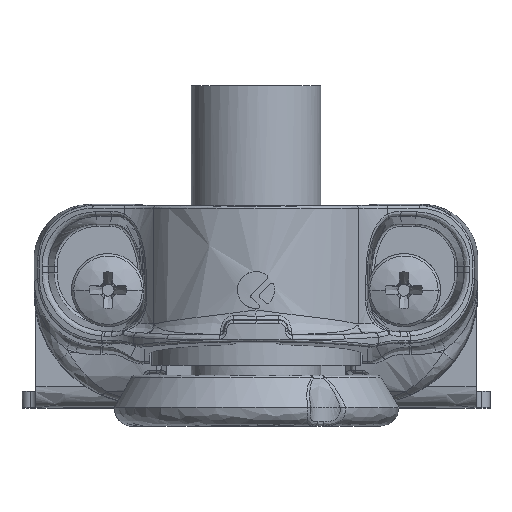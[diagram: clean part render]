
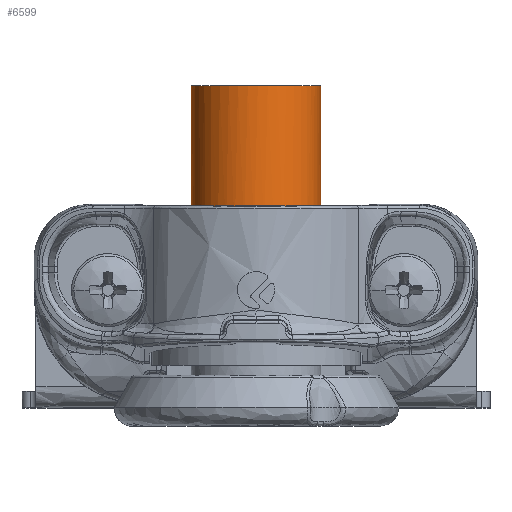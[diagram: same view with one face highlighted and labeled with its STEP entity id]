
A CAD part, top view. The second image highlights one B-rep face of the part: STEP entity #6599.
In plain terms, the highlighted free-form (B-spline) face has degree [1, 3] with [2, 4] control points.
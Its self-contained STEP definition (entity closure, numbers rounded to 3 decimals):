
#230 = EDGE_CURVE ( 'NONE', #28515, #46339, #40905, .T. ) ;
#1218 =( BOUNDED_SURFACE ( )  B_SPLINE_SURFACE ( 1, 3, ( 
 ( #20879, #5001, #48065, #5245 ),
 ( #1241, #47585, #9290, #36461 ) ),
 .UNSPECIFIED., .F., .F., .F. ) 
 B_SPLINE_SURFACE_WITH_KNOTS ( ( 2, 2 ),
 ( 4, 4 ),
 ( 0.019, 0.981 ),
 ( 0., 1. ),
 .UNSPECIFIED. ) 
 GEOMETRIC_REPRESENTATION_ITEM ( )  RATIONAL_B_SPLINE_SURFACE ( (
 ( 1., 0.333, 0.333, 1.),
 ( 1., 0.333, 0.333, 1.) ) ) 
 REPRESENTATION_ITEM ( '' )  SURFACE ( )  );
#1241 = CARTESIAN_POINT ( 'NONE',  ( -7., 30.7, 0. ) ) ;
#3926 = EDGE_CURVE ( 'NONE', #24219, #46339, #29794, .T. ) ;
#5001 = CARTESIAN_POINT ( 'NONE',  ( -7., 14.8, 14. ) ) ;
#5245 = CARTESIAN_POINT ( 'NONE',  ( 7., 14.8, 0. ) ) ;
#6599 = ADVANCED_FACE ( 'NONE', ( #24397 ), #1218, .T. ) ;
#7137 = EDGE_CURVE ( 'NONE', #24219, #13693, #13239, .T. ) ;
#9290 = CARTESIAN_POINT ( 'NONE',  ( 7., 30.7, 14. ) ) ;
#11780 = CARTESIAN_POINT ( 'NONE',  ( -7., 14.8, 0. ) ) ;
#13239 =( BOUNDED_CURVE ( )  B_SPLINE_CURVE ( 3, ( #31346, #28561, #24029, #23538 ),
 .UNSPECIFIED., .F., .F. ) 
 B_SPLINE_CURVE_WITH_KNOTS ( ( 4, 4 ),
 ( 0., 3.142 ),
 .UNSPECIFIED. ) 
 CURVE ( )  GEOMETRIC_REPRESENTATION_ITEM ( )  RATIONAL_B_SPLINE_CURVE ( ( 1., 0.333, 0.333, 1. ) ) 
 REPRESENTATION_ITEM ( '' )  );
#13693 = VERTEX_POINT ( 'NONE', #30518 ) ;
#14481 = CARTESIAN_POINT ( 'NONE',  ( 7., 14.8, 0. ) ) ;
#14506 = ORIENTED_EDGE ( 'NONE', *, *, #3926, .F. ) ;
#15547 = CARTESIAN_POINT ( 'NONE',  ( 7., 30.7, 0. ) ) ;
#17083 = EDGE_CURVE ( 'NONE', #28515, #13693, #49270, .T. ) ;
#20879 = CARTESIAN_POINT ( 'NONE',  ( -7., 14.8, 0. ) ) ;
#21223 = ORIENTED_EDGE ( 'NONE', *, *, #230, .T. ) ;
#22841 = CARTESIAN_POINT ( 'NONE',  ( 7., 14.8, 0. ) ) ;
#23538 = CARTESIAN_POINT ( 'NONE',  ( 7., 30.7, 0. ) ) ;
#24029 = CARTESIAN_POINT ( 'NONE',  ( 7., 30.7, 14. ) ) ;
#24219 = VERTEX_POINT ( 'NONE', #45507 ) ;
#24397 = FACE_OUTER_BOUND ( 'NONE', #44163, .T. ) ;
#28515 = VERTEX_POINT ( 'NONE', #28829 ) ;
#28561 = CARTESIAN_POINT ( 'NONE',  ( -7., 30.7, 14. ) ) ;
#28829 = CARTESIAN_POINT ( 'NONE',  ( 7., 14.8, 0. ) ) ;
#29794 = B_SPLINE_CURVE_WITH_KNOTS ( 'NONE', 1,
 ( #43476, #43971 ),
 .UNSPECIFIED., .F., .F.,
 ( 2, 2 ),
 ( 0., 1. ),
 .UNSPECIFIED. ) ;
#30236 = ORIENTED_EDGE ( 'NONE', *, *, #17083, .F. ) ;
#30518 = CARTESIAN_POINT ( 'NONE',  ( 7., 30.7, 0. ) ) ;
#31346 = CARTESIAN_POINT ( 'NONE',  ( -7., 30.7, 0. ) ) ;
#36461 = CARTESIAN_POINT ( 'NONE',  ( 7., 30.7, 0. ) ) ;
#38125 = CARTESIAN_POINT ( 'NONE',  ( -7., 14.8, 14. ) ) ;
#39840 = ORIENTED_EDGE ( 'NONE', *, *, #7137, .T. ) ;
#40905 =( BOUNDED_CURVE ( )  B_SPLINE_CURVE ( 3, ( #14481, #45223, #38125, #47155 ),
 .UNSPECIFIED., .F., .T. ) 
 B_SPLINE_CURVE_WITH_KNOTS ( ( 4, 4 ),
 ( 0., 3.142 ),
 .UNSPECIFIED. ) 
 CURVE ( )  GEOMETRIC_REPRESENTATION_ITEM ( )  RATIONAL_B_SPLINE_CURVE ( ( 1., 0.333, 0.333, 1. ) ) 
 REPRESENTATION_ITEM ( '' )  );
#43476 = CARTESIAN_POINT ( 'NONE',  ( -7., 30.7, 0. ) ) ;
#43971 = CARTESIAN_POINT ( 'NONE',  ( -7., 14.8, 0. ) ) ;
#44163 = EDGE_LOOP ( 'NONE', ( #39840, #30236, #21223, #14506 ) ) ;
#45223 = CARTESIAN_POINT ( 'NONE',  ( 7., 14.8, 14. ) ) ;
#45507 = CARTESIAN_POINT ( 'NONE',  ( -7., 30.7, 0. ) ) ;
#46339 = VERTEX_POINT ( 'NONE', #11780 ) ;
#47155 = CARTESIAN_POINT ( 'NONE',  ( -7., 14.8, 0. ) ) ;
#47585 = CARTESIAN_POINT ( 'NONE',  ( -7., 30.7, 14. ) ) ;
#48065 = CARTESIAN_POINT ( 'NONE',  ( 7., 14.8, 14. ) ) ;
#49270 = B_SPLINE_CURVE_WITH_KNOTS ( 'NONE', 1,
 ( #22841, #15547 ),
 .UNSPECIFIED., .F., .F.,
 ( 2, 2 ),
 ( 0., 1. ),
 .UNSPECIFIED. ) ;
